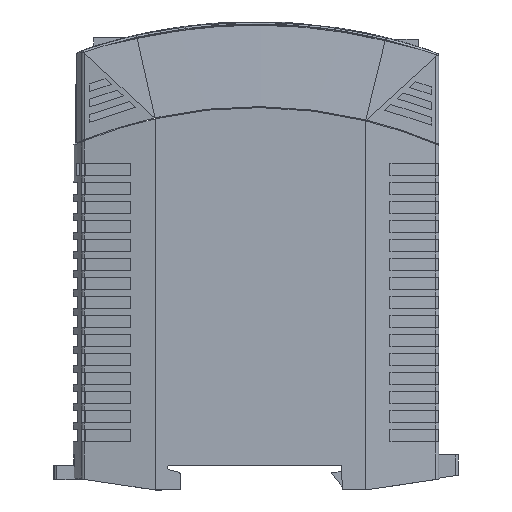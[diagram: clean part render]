
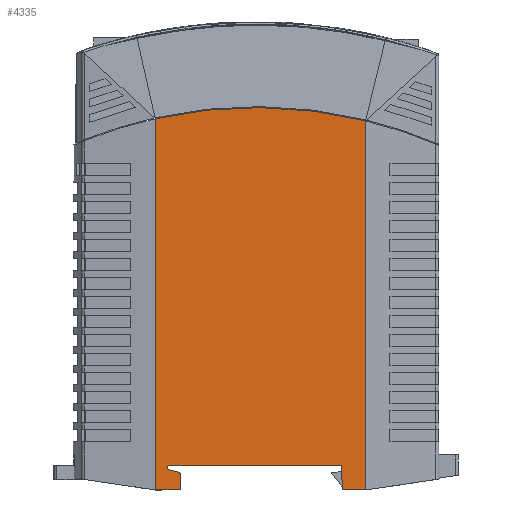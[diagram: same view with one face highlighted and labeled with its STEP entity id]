
A CAD part, left-side view. The second image highlights one B-rep face of the part: STEP entity #4335.
In plain terms, the highlighted planar face has unit normal (-1, 0, 0).
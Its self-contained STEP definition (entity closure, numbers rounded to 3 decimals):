
#699=CARTESIAN_POINT('',(-22.5,15.,70.785));
#700=VERTEX_POINT('',#699);
#708=CARTESIAN_POINT('',(-22.5,15.0,-5.));
#709=VERTEX_POINT('',#708);
#710=CARTESIAN_POINT('',(-22.5,15.,70.785));
#711=DIRECTION('',(0.0,0.0,-1.0));
#712=VECTOR('',#711,75.785);
#713=LINE('',#710,#712);
#714=EDGE_CURVE('',#700,#709,#713,.T.);
#2580=CARTESIAN_POINT('',(-22.5,58.2,71.207));
#2581=VERTEX_POINT('',#2580);
#2589=CARTESIAN_POINT('',(-22.5,37.5,-21.1));
#2590=DIRECTION('',(1.0,0.0,0.0));
#2591=DIRECTION('',(0.0,0.0,-1.0));
#2592=AXIS2_PLACEMENT_3D('',#2589,#2590,#2591);
#2593=CIRCLE('',#2592,94.6);
#2594=EDGE_CURVE('',#2581,#700,#2593,.T.);
#4254=CARTESIAN_POINT('',(-22.5,58.2,0.0));
#4255=DIRECTION('',(-1.0,0.0,0.0));
#4256=DIRECTION('',(0.0,0.0,1.0));
#4257=AXIS2_PLACEMENT_3D('',#4254,#4255,#4256);
#4258=PLANE('',#4257);
#4259=CARTESIAN_POINT('',(-22.5,55.32,0.));
#4260=VERTEX_POINT('',#4259);
#4261=CARTESIAN_POINT('',(-22.5,20.,0.0));
#4262=VERTEX_POINT('',#4261);
#4263=CARTESIAN_POINT('',(-22.5,55.32,0.0));
#4264=DIRECTION('',(0.0,-1.0,0.0));
#4265=VECTOR('',#4264,35.32);
#4266=LINE('',#4263,#4265);
#4267=EDGE_CURVE('',#4260,#4262,#4266,.T.);
#4268=ORIENTED_EDGE('',*,*,#4267,.T.);
#4269=CARTESIAN_POINT('',(-22.5,19.74,-5.));
#4270=VERTEX_POINT('',#4269);
#4271=CARTESIAN_POINT('',(-22.5,20.,0.));
#4272=DIRECTION('',(0.0,-0.052,-0.999));
#4273=VECTOR('',#4272,5.007);
#4274=LINE('',#4271,#4273);
#4275=EDGE_CURVE('',#4262,#4270,#4274,.T.);
#4276=ORIENTED_EDGE('',*,*,#4275,.T.);
#4277=CARTESIAN_POINT('',(-22.5,19.74,-5.));
#4278=DIRECTION('',(0.0,-1.0,0.0));
#4279=VECTOR('',#4278,4.74);
#4280=LINE('',#4277,#4279);
#4281=EDGE_CURVE('',#4270,#709,#4280,.T.);
#4282=ORIENTED_EDGE('',*,*,#4281,.T.);
#4283=ORIENTED_EDGE('',*,*,#714,.F.);
#4284=ORIENTED_EDGE('',*,*,#2594,.F.);
#4285=CARTESIAN_POINT('',(-22.5,58.2,-5.));
#4286=VERTEX_POINT('',#4285);
#4287=CARTESIAN_POINT('',(-22.5,58.2,71.207));
#4288=DIRECTION('',(0.0,0.0,-1.0));
#4289=VECTOR('',#4288,76.207);
#4290=LINE('',#4287,#4289);
#4291=EDGE_CURVE('',#2581,#4286,#4290,.T.);
#4292=ORIENTED_EDGE('',*,*,#4291,.T.);
#4293=CARTESIAN_POINT('',(-22.5,53.,-5.));
#4294=VERTEX_POINT('',#4293);
#4295=CARTESIAN_POINT('',(-22.5,58.2,-5.));
#4296=DIRECTION('',(0.0,-1.0,0.0));
#4297=VECTOR('',#4296,5.2);
#4298=LINE('',#4295,#4297);
#4299=EDGE_CURVE('',#4286,#4294,#4298,.T.);
#4300=ORIENTED_EDGE('',*,*,#4299,.T.);
#4301=CARTESIAN_POINT('',(-22.5,53.,-1.819));
#4302=VERTEX_POINT('',#4301);
#4303=CARTESIAN_POINT('',(-22.5,53.,-5.));
#4304=DIRECTION('',(0.0,0.0,1.0));
#4305=VECTOR('',#4304,3.181);
#4306=LINE('',#4303,#4305);
#4307=EDGE_CURVE('',#4294,#4302,#4306,.T.);
#4308=ORIENTED_EDGE('',*,*,#4307,.T.);
#4309=CARTESIAN_POINT('',(-22.5,53.371,-1.336));
#4310=VERTEX_POINT('',#4309);
#4311=CARTESIAN_POINT('',(-22.5,53.5,-1.819));
#4312=DIRECTION('',(-1.0,0.0,0.0));
#4313=DIRECTION('',(0.0,0.0,-1.0));
#4314=AXIS2_PLACEMENT_3D('',#4311,#4312,#4313);
#4315=CIRCLE('',#4314,0.5);
#4316=EDGE_CURVE('',#4302,#4310,#4315,.T.);
#4317=ORIENTED_EDGE('',*,*,#4316,.T.);
#4318=CARTESIAN_POINT('',(-22.5,55.424,-0.786));
#4319=VERTEX_POINT('',#4318);
#4320=CARTESIAN_POINT('',(-22.5,53.371,-1.336));
#4321=DIRECTION('',(0.0,0.966,0.259));
#4322=VECTOR('',#4321,2.125);
#4323=LINE('',#4320,#4322);
#4324=EDGE_CURVE('',#4310,#4319,#4323,.T.);
#4325=ORIENTED_EDGE('',*,*,#4324,.T.);
#4326=CARTESIAN_POINT('',(-22.5,55.32,-0.4));
#4327=DIRECTION('',(1.0,0.0,0.0));
#4328=DIRECTION('',(0.0,0.0,-1.0));
#4329=AXIS2_PLACEMENT_3D('',#4326,#4327,#4328);
#4330=CIRCLE('',#4329,0.4);
#4331=EDGE_CURVE('',#4319,#4260,#4330,.T.);
#4332=ORIENTED_EDGE('',*,*,#4331,.T.);
#4333=EDGE_LOOP('',(#4268,#4276,#4282,#4283,#4284,#4292,#4300,#4308,#4317,#4325,#4332));
#4334=FACE_OUTER_BOUND('',#4333,.T.);
#4335=ADVANCED_FACE('',(#4334),#4258,.T.);
